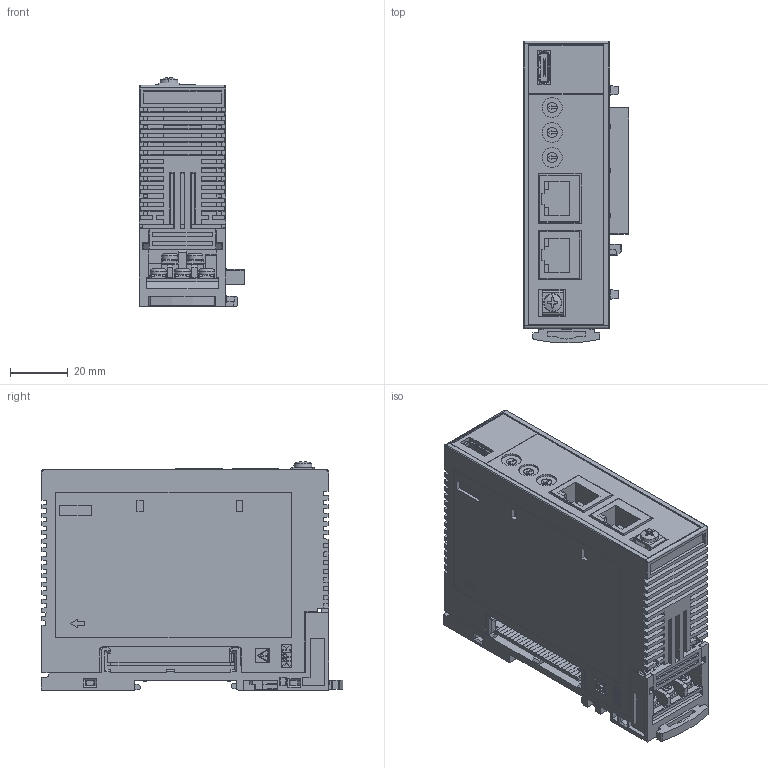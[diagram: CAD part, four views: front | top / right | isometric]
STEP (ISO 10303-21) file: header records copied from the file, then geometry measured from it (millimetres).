
FILE_DESCRIPTION (( 'STEP AP203' ), '1' );
FILE_NAME ('COM-ME-1_WEB.STEP', '2021-04-21T02:34:03', ( '' ), ( '' ), 'SwSTEP 2.0', 'SolidWorks 2018', '' );
FILE_SCHEMA (( 'CONFIG_CONTROL_DESIGN' ));
Length unit declared in the file: millimetre
Products named in the file (3): COM-ME-1_WEB; KSRZ-54(1)_WEB_デフォルト; COM-ME-1(基本設計)_WEB_デフォルト
Assembly tree (2 placements, depth 2):
  COM-ME-1_WEB
    COM-ME-1(基本設計)_WEB_デフォルト
    KSRZ-54(1)_WEB_デフォルト
Bounding box: 36.65 x 104.86 x 79.46 mm (x, y, z)
Volume: 165164.6 mm3; surface area: 62384.2 mm2
Topology: 3 solids, 6 shells, 3327 faces, 9039 edges, 5858 vertices
Faces by surface type: plane 2505, cylinder 437, bspline 331, sphere 26, torus 18, cone 10
Entity records: 114692 total; most frequent: CARTESIAN_POINT 32482, ORIENTED_EDGE 18014, DIRECTION 15013, EDGE_CURVE 9007, LINE 7323, VECTOR 7323, VERTEX_POINT 5850, AXIS2_PLACEMENT_3D 3845
